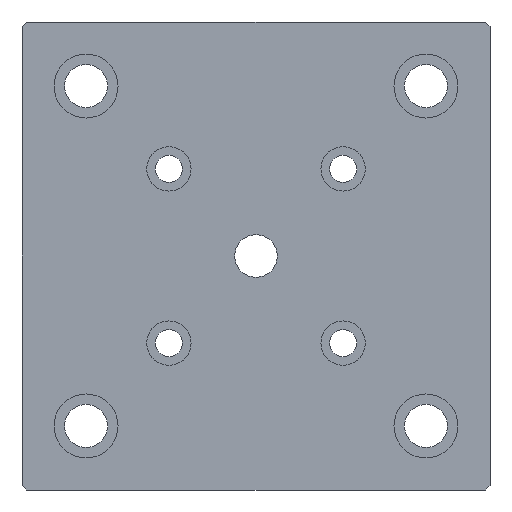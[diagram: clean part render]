
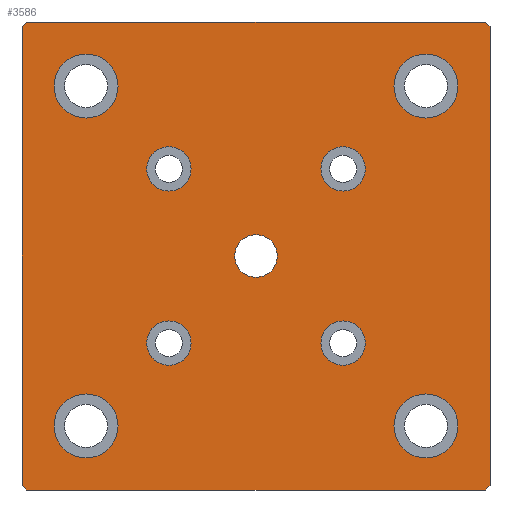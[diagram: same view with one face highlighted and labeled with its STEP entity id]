
A CAD part, front view. The second image highlights one B-rep face of the part: STEP entity #3586.
In plain terms, the highlighted planar face has unit normal (0, -1, 0).
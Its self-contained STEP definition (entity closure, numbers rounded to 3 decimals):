
#45=CIRCLE('',#3707,13.);
#46=CIRCLE('',#3708,13.);
#50=CIRCLE('',#3715,13.);
#51=CIRCLE('',#3716,13.);
#55=CIRCLE('',#3723,13.);
#56=CIRCLE('',#3724,13.);
#60=CIRCLE('',#3731,13.);
#61=CIRCLE('',#3732,13.);
#65=CIRCLE('',#3739,9.);
#66=CIRCLE('',#3740,9.);
#70=CIRCLE('',#3747,9.);
#71=CIRCLE('',#3748,9.);
#75=CIRCLE('',#3755,9.);
#76=CIRCLE('',#3756,9.);
#80=CIRCLE('',#3763,9.);
#81=CIRCLE('',#3764,9.);
#82=CIRCLE('',#3769,8.647);
#115=FACE_BOUND('',#627,.T.);
#116=FACE_BOUND('',#628,.T.);
#117=FACE_BOUND('',#629,.T.);
#118=FACE_BOUND('',#630,.T.);
#119=FACE_BOUND('',#631,.T.);
#120=FACE_BOUND('',#632,.T.);
#121=FACE_BOUND('',#633,.T.);
#122=FACE_BOUND('',#634,.T.);
#123=FACE_BOUND('',#635,.T.);
#211=PLANE('',#3768);
#402=FACE_OUTER_BOUND('',#626,.T.);
#626=EDGE_LOOP('',(#3261,#3262,#3263,#3264,#3265,#3266,#3267,#3268));
#627=EDGE_LOOP('',(#3269,#3270));
#628=EDGE_LOOP('',(#3271,#3272));
#629=EDGE_LOOP('',(#3273,#3274));
#630=EDGE_LOOP('',(#3275,#3276));
#631=EDGE_LOOP('',(#3277,#3278));
#632=EDGE_LOOP('',(#3279,#3280));
#633=EDGE_LOOP('',(#3281,#3282));
#634=EDGE_LOOP('',(#3283,#3284));
#635=EDGE_LOOP('',(#3285));
#935=LINE('',#6481,#1242);
#937=LINE('',#6485,#1244);
#939=LINE('',#6489,#1246);
#940=LINE('',#6491,#1247);
#941=LINE('',#6493,#1248);
#942=LINE('',#6495,#1249);
#943=LINE('',#6497,#1250);
#944=LINE('',#6498,#1251);
#1242=VECTOR('',#4375,10.);
#1244=VECTOR('',#4379,10.);
#1246=VECTOR('',#4383,10.);
#1247=VECTOR('',#4384,10.);
#1248=VECTOR('',#4385,10.);
#1249=VECTOR('',#4386,10.);
#1250=VECTOR('',#4387,10.);
#1251=VECTOR('',#4388,10.);
#1723=VERTEX_POINT('',#6365);
#1724=VERTEX_POINT('',#6366);
#1728=VERTEX_POINT('',#6380);
#1729=VERTEX_POINT('',#6381);
#1733=VERTEX_POINT('',#6395);
#1734=VERTEX_POINT('',#6396);
#1738=VERTEX_POINT('',#6410);
#1739=VERTEX_POINT('',#6411);
#1743=VERTEX_POINT('',#6425);
#1744=VERTEX_POINT('',#6426);
#1748=VERTEX_POINT('',#6440);
#1749=VERTEX_POINT('',#6441);
#1753=VERTEX_POINT('',#6455);
#1754=VERTEX_POINT('',#6456);
#1758=VERTEX_POINT('',#6470);
#1759=VERTEX_POINT('',#6471);
#1760=VERTEX_POINT('',#6478);
#1761=VERTEX_POINT('',#6480);
#1762=VERTEX_POINT('',#6484);
#1763=VERTEX_POINT('',#6488);
#1764=VERTEX_POINT('',#6490);
#1765=VERTEX_POINT('',#6492);
#1766=VERTEX_POINT('',#6494);
#1767=VERTEX_POINT('',#6496);
#1768=VERTEX_POINT('',#6499);
#2216=EDGE_CURVE('',#1723,#1724,#45,.T.);
#2217=EDGE_CURVE('',#1724,#1723,#46,.T.);
#2223=EDGE_CURVE('',#1728,#1729,#50,.T.);
#2224=EDGE_CURVE('',#1729,#1728,#51,.T.);
#2230=EDGE_CURVE('',#1733,#1734,#55,.T.);
#2231=EDGE_CURVE('',#1734,#1733,#56,.T.);
#2237=EDGE_CURVE('',#1738,#1739,#60,.T.);
#2238=EDGE_CURVE('',#1739,#1738,#61,.T.);
#2244=EDGE_CURVE('',#1743,#1744,#65,.T.);
#2245=EDGE_CURVE('',#1744,#1743,#66,.T.);
#2251=EDGE_CURVE('',#1748,#1749,#70,.T.);
#2252=EDGE_CURVE('',#1749,#1748,#71,.T.);
#2258=EDGE_CURVE('',#1753,#1754,#75,.T.);
#2259=EDGE_CURVE('',#1754,#1753,#76,.T.);
#2265=EDGE_CURVE('',#1758,#1759,#80,.T.);
#2266=EDGE_CURVE('',#1759,#1758,#81,.T.);
#2270=EDGE_CURVE('',#1760,#1761,#935,.T.);
#2272=EDGE_CURVE('',#1762,#1761,#937,.T.);
#2274=EDGE_CURVE('',#1760,#1763,#939,.T.);
#2275=EDGE_CURVE('',#1764,#1763,#940,.T.);
#2276=EDGE_CURVE('',#1764,#1765,#941,.T.);
#2277=EDGE_CURVE('',#1766,#1765,#942,.T.);
#2278=EDGE_CURVE('',#1766,#1767,#943,.T.);
#2279=EDGE_CURVE('',#1762,#1767,#944,.T.);
#2280=EDGE_CURVE('',#1768,#1768,#82,.T.);
#3261=ORIENTED_EDGE('',*,*,#2270,.F.);
#3262=ORIENTED_EDGE('',*,*,#2274,.T.);
#3263=ORIENTED_EDGE('',*,*,#2275,.F.);
#3264=ORIENTED_EDGE('',*,*,#2276,.T.);
#3265=ORIENTED_EDGE('',*,*,#2277,.F.);
#3266=ORIENTED_EDGE('',*,*,#2278,.T.);
#3267=ORIENTED_EDGE('',*,*,#2279,.F.);
#3268=ORIENTED_EDGE('',*,*,#2272,.T.);
#3269=ORIENTED_EDGE('',*,*,#2216,.T.);
#3270=ORIENTED_EDGE('',*,*,#2217,.T.);
#3271=ORIENTED_EDGE('',*,*,#2223,.T.);
#3272=ORIENTED_EDGE('',*,*,#2224,.T.);
#3273=ORIENTED_EDGE('',*,*,#2230,.T.);
#3274=ORIENTED_EDGE('',*,*,#2231,.T.);
#3275=ORIENTED_EDGE('',*,*,#2237,.T.);
#3276=ORIENTED_EDGE('',*,*,#2238,.T.);
#3277=ORIENTED_EDGE('',*,*,#2244,.T.);
#3278=ORIENTED_EDGE('',*,*,#2245,.T.);
#3279=ORIENTED_EDGE('',*,*,#2251,.T.);
#3280=ORIENTED_EDGE('',*,*,#2252,.T.);
#3281=ORIENTED_EDGE('',*,*,#2258,.T.);
#3282=ORIENTED_EDGE('',*,*,#2259,.T.);
#3283=ORIENTED_EDGE('',*,*,#2265,.T.);
#3284=ORIENTED_EDGE('',*,*,#2266,.T.);
#3285=ORIENTED_EDGE('',*,*,#2280,.T.);
#3586=ADVANCED_FACE('',(#402,#115,#116,#117,#118,#119,#120,#121,#122,#123),
#211,.F.);
#3707=AXIS2_PLACEMENT_3D('',#6367,#4238,#4239);
#3708=AXIS2_PLACEMENT_3D('',#6368,#4240,#4241);
#3715=AXIS2_PLACEMENT_3D('',#6382,#4256,#4257);
#3716=AXIS2_PLACEMENT_3D('',#6383,#4258,#4259);
#3723=AXIS2_PLACEMENT_3D('',#6397,#4274,#4275);
#3724=AXIS2_PLACEMENT_3D('',#6398,#4276,#4277);
#3731=AXIS2_PLACEMENT_3D('',#6412,#4292,#4293);
#3732=AXIS2_PLACEMENT_3D('',#6413,#4294,#4295);
#3739=AXIS2_PLACEMENT_3D('',#6427,#4310,#4311);
#3740=AXIS2_PLACEMENT_3D('',#6428,#4312,#4313);
#3747=AXIS2_PLACEMENT_3D('',#6442,#4328,#4329);
#3748=AXIS2_PLACEMENT_3D('',#6443,#4330,#4331);
#3755=AXIS2_PLACEMENT_3D('',#6457,#4346,#4347);
#3756=AXIS2_PLACEMENT_3D('',#6458,#4348,#4349);
#3763=AXIS2_PLACEMENT_3D('',#6472,#4364,#4365);
#3764=AXIS2_PLACEMENT_3D('',#6473,#4366,#4367);
#3768=AXIS2_PLACEMENT_3D('',#6487,#4381,#4382);
#3769=AXIS2_PLACEMENT_3D('',#6500,#4389,#4390);
#4238=DIRECTION('center_axis',(0.,1.,0.));
#4239=DIRECTION('ref_axis',(0.,0.,-1.));
#4240=DIRECTION('center_axis',(0.,1.,0.));
#4241=DIRECTION('ref_axis',(0.,0.,-1.));
#4256=DIRECTION('center_axis',(0.,1.,0.));
#4257=DIRECTION('ref_axis',(1.,0.,0.));
#4258=DIRECTION('center_axis',(0.,1.,0.));
#4259=DIRECTION('ref_axis',(1.,0.,0.));
#4274=DIRECTION('center_axis',(0.,1.,0.));
#4275=DIRECTION('ref_axis',(0.,0.,1.));
#4276=DIRECTION('center_axis',(0.,1.,0.));
#4277=DIRECTION('ref_axis',(0.,0.,1.));
#4292=DIRECTION('center_axis',(0.,1.,0.));
#4293=DIRECTION('ref_axis',(-1.,0.,0.));
#4294=DIRECTION('center_axis',(0.,1.,0.));
#4295=DIRECTION('ref_axis',(-1.,0.,0.));
#4310=DIRECTION('center_axis',(0.,1.,0.));
#4311=DIRECTION('ref_axis',(0.,0.,-1.));
#4312=DIRECTION('center_axis',(0.,1.,0.));
#4313=DIRECTION('ref_axis',(0.,0.,-1.));
#4328=DIRECTION('center_axis',(0.,1.,0.));
#4329=DIRECTION('ref_axis',(1.,0.,0.));
#4330=DIRECTION('center_axis',(0.,1.,0.));
#4331=DIRECTION('ref_axis',(1.,0.,0.));
#4346=DIRECTION('center_axis',(0.,1.,0.));
#4347=DIRECTION('ref_axis',(0.,0.,1.));
#4348=DIRECTION('center_axis',(0.,1.,0.));
#4349=DIRECTION('ref_axis',(0.,0.,1.));
#4364=DIRECTION('center_axis',(0.,1.,0.));
#4365=DIRECTION('ref_axis',(-1.,0.,0.));
#4366=DIRECTION('center_axis',(0.,1.,0.));
#4367=DIRECTION('ref_axis',(-1.,0.,0.));
#4375=DIRECTION('',(-0.707,0.,-0.707));
#4379=DIRECTION('',(1.,0.,0.));
#4381=DIRECTION('center_axis',(0.,1.,0.));
#4382=DIRECTION('ref_axis',(0.,0.,1.));
#4383=DIRECTION('',(0.,0.,1.));
#4384=DIRECTION('',(0.707,0.,-0.707));
#4385=DIRECTION('',(-1.,0.,0.));
#4386=DIRECTION('',(0.707,0.,0.707));
#4387=DIRECTION('',(0.,0.,-1.));
#4388=DIRECTION('',(-0.707,0.,0.707));
#4389=DIRECTION('center_axis',(0.,1.,0.));
#4390=DIRECTION('ref_axis',(1.,0.,0.));
#6365=CARTESIAN_POINT('',(-26.,0.,-39.));
#6366=CARTESIAN_POINT('',(-26.,0.,-13.));
#6367=CARTESIAN_POINT('Origin',(-26.,0.,-26.));
#6368=CARTESIAN_POINT('Origin',(-26.,0.,-26.));
#6380=CARTESIAN_POINT('',(-151.,0.,-26.));
#6381=CARTESIAN_POINT('',(-177.,0.,-26.));
#6382=CARTESIAN_POINT('Origin',(-164.,0.,-26.));
#6383=CARTESIAN_POINT('Origin',(-164.,0.,-26.));
#6395=CARTESIAN_POINT('',(-164.,0.,-151.));
#6396=CARTESIAN_POINT('',(-164.,0.,-177.));
#6397=CARTESIAN_POINT('Origin',(-164.,0.,-164.));
#6398=CARTESIAN_POINT('Origin',(-164.,0.,-164.));
#6410=CARTESIAN_POINT('',(-39.,0.,-164.));
#6411=CARTESIAN_POINT('',(-13.,0.,-164.));
#6412=CARTESIAN_POINT('Origin',(-26.,0.,-164.));
#6413=CARTESIAN_POINT('Origin',(-26.,0.,-164.));
#6425=CARTESIAN_POINT('',(-59.645,0.,-68.645));
#6426=CARTESIAN_POINT('',(-59.645,0.,-50.645));
#6427=CARTESIAN_POINT('Origin',(-59.645,0.,-59.645));
#6428=CARTESIAN_POINT('Origin',(-59.645,0.,-59.645));
#6440=CARTESIAN_POINT('',(-121.355,0.,-59.645));
#6441=CARTESIAN_POINT('',(-139.355,0.,-59.645));
#6442=CARTESIAN_POINT('Origin',(-130.355,0.,-59.645));
#6443=CARTESIAN_POINT('Origin',(-130.355,0.,-59.645));
#6455=CARTESIAN_POINT('',(-130.355,0.,-121.355));
#6456=CARTESIAN_POINT('',(-130.355,0.,-139.355));
#6457=CARTESIAN_POINT('Origin',(-130.355,0.,-130.355));
#6458=CARTESIAN_POINT('Origin',(-130.355,0.,-130.355));
#6470=CARTESIAN_POINT('',(-68.645,0.,-130.355));
#6471=CARTESIAN_POINT('',(-50.645,0.,-130.355));
#6472=CARTESIAN_POINT('Origin',(-59.645,0.,-130.355));
#6473=CARTESIAN_POINT('Origin',(-59.645,0.,-130.355));
#6478=CARTESIAN_POINT('',(0.,0.,-188.));
#6480=CARTESIAN_POINT('',(-2.,0.,-190.));
#6481=CARTESIAN_POINT('',(-1.,0.,-189.));
#6484=CARTESIAN_POINT('',(-188.,0.,-190.));
#6485=CARTESIAN_POINT('',(-190.,0.,-190.));
#6487=CARTESIAN_POINT('Origin',(-95.,0.,-95.));
#6488=CARTESIAN_POINT('',(0.,0.,-2.));
#6489=CARTESIAN_POINT('',(0.,0.,-190.));
#6490=CARTESIAN_POINT('',(-2.,0.,0.));
#6491=CARTESIAN_POINT('',(-1.,0.,-1.));
#6492=CARTESIAN_POINT('',(-188.,0.,0.));
#6493=CARTESIAN_POINT('',(0.,0.,0.));
#6494=CARTESIAN_POINT('',(-190.,0.,-2.));
#6495=CARTESIAN_POINT('',(-189.,0.,-1.));
#6496=CARTESIAN_POINT('',(-190.,0.,-188.));
#6497=CARTESIAN_POINT('',(-190.,0.,0.));
#6498=CARTESIAN_POINT('',(-189.,0.,-189.));
#6499=CARTESIAN_POINT('',(-103.647,0.,-95.));
#6500=CARTESIAN_POINT('Origin',(-95.,0.,-95.));
